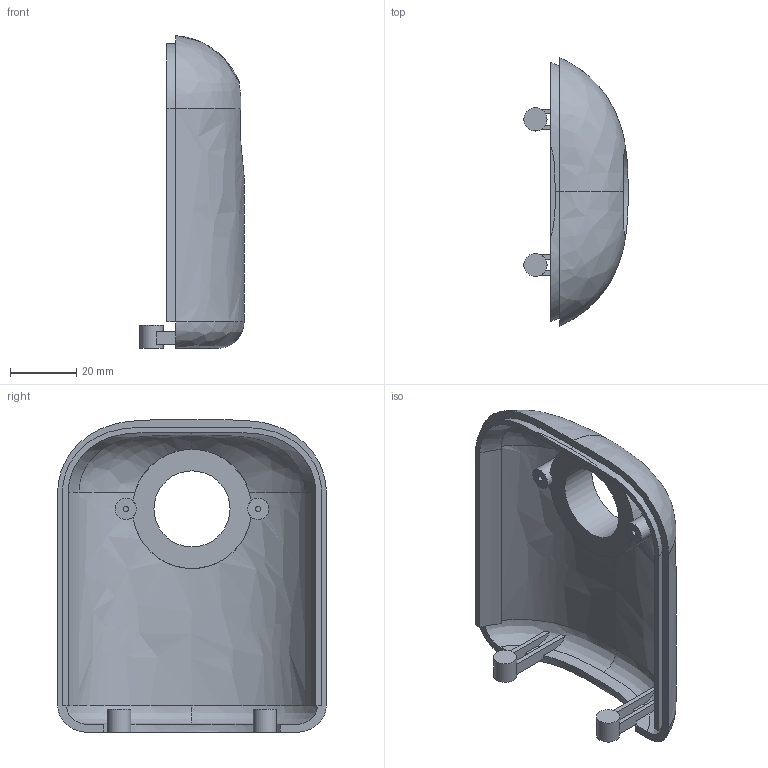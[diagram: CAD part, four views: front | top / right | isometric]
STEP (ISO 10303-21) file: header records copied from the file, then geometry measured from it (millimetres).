
FILE_DESCRIPTION(('Open CASCADE Model'),'2;1');
FILE_NAME('Open CASCADE Shape Model','2026-11-01T16:31:46',('Author'),( 'Open CASCADE'),'Open CASCADE STEP processor 8.0','build123d', 'Unknown');
FILE_SCHEMA(('AUTOMOTIVE_DESIGN { 1 0 10303 214 1 1 1 1 }'));
Products named in the file (1): COMPOUND
Bounding box: 31.5 x 81.14 x 94.46 mm (x, y, z)
Volume: 30613.6 mm3; surface area: 24161.6 mm2
Topology: 1 solids, 1 shells, 72 faces, 194 edges, 128 vertices
Faces by surface type: plane 41, offset 13, cylinder 12, bspline 4, extrusion 2
Full cylindrical faces by diameter (mm): 1.7 x2, 3.6 x2, 6.4 x2, 7 x2, 23 x1
Entity records: 81872 total; most frequent: CARTESIAN_POINT 78649, ORIENTED_EDGE 388, PCURVE 388, DEFINITIONAL_REPRESENTATION 388, B_SPLINE_CURVE_WITH_KNOTS 363, DIRECTION 361, EDGE_CURVE 194, SURFACE_CURVE 185
